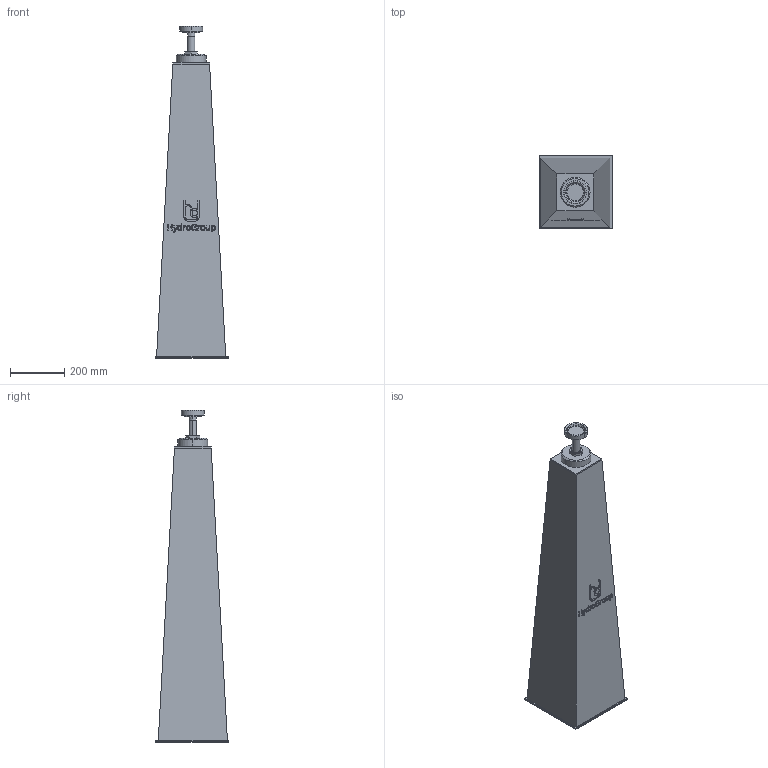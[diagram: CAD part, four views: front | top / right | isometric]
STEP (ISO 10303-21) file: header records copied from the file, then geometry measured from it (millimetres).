
FILE_DESCRIPTION(('STEP AP214'),'1');
FILE_NAME('RSRFE-IV-05-V0.stp','2018-06-29T11:07:05',(' '),(' '),'Spatial InterOp 3D',' ',' ');
FILE_SCHEMA(('automotive_design'));
Length unit declared in the file: millimetre
Products named in the file (6): 1; 2; 3; 4; 5; 6
Bounding box: 270 x 270 x 1228.99 mm (x, y, z)
Volume: 43951028.5 mm3; surface area: 1186492.9 mm2
Topology: 6 solids, 6 shells, 226 faces, 557 edges, 362 vertices
Faces by surface type: plane 135, cylinder 33, cone 24, extrusion 24, torus 10
Entity records: 9108 total; most frequent: CARTESIAN_POINT 1825, ORIENTED_EDGE 1114, DIRECTION 1055, EDGE_CURVE 557, VECTOR 403, LINE 379, VERTEX_POINT 362, AXIS2_PLACEMENT_3D 326
